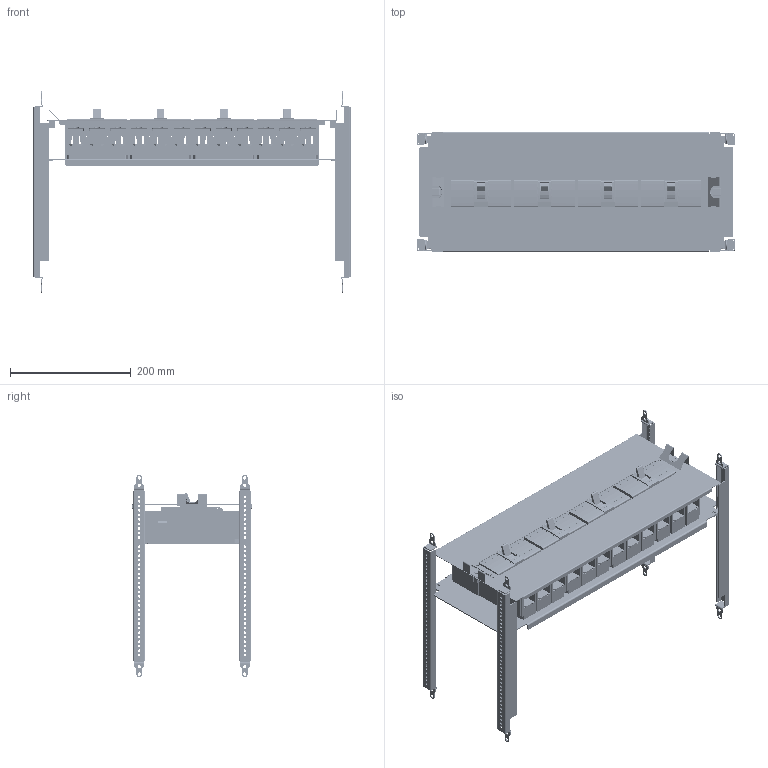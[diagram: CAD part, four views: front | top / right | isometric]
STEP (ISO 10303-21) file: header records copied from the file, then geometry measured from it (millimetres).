
FILE_DESCRIPTION(('CAx-IF Rec.Pracs.---Model Styling and Organization---1.2---2011-12-15','CAx-IF Rec.Pracs.---Geometric and Assembly Validation Properties---4.1---2014-06-16','CAx-IF Rec.Pracs.---PMI Polyline Presentation---2.0---2013-05-24'),'2;1');
FILE_NAME('R5PKIB7V61113.stp','2021-07-29T03:08:36+03:00',(''),(''),'STEP Interface 4.4 by CT CoreTechnologie','3D_Evolution4.4 by CT CoreTechnologie','');
FILE_SCHEMA(('AUTOMOTIVE_DESIGN { 1 0 10303 214 1 1 1 1 }'));
Length unit declared in the file: millimetre
Products named in the file (1): R5PKIB7V61113
Bounding box: 526 x 198 x 335 mm (x, y, z)
Surface area: 1003307.6 mm2 (no closed solid volume)
Topology: 0 solids, 111 shells, 4864 faces, 19473 edges, 14146 vertices
Faces by surface type: plane 2924, cylinder 1788, bspline 152
Entity records: 207441 total; most frequent: CARTESIAN_POINT 46116, DIRECTION 32677, ORIENTED_EDGE 31272, EDGE_CURVE 19421, VECTOR 14463, LINE 14463, VERTEX_POINT 14146, AXIS2_PLACEMENT_3D 9107
